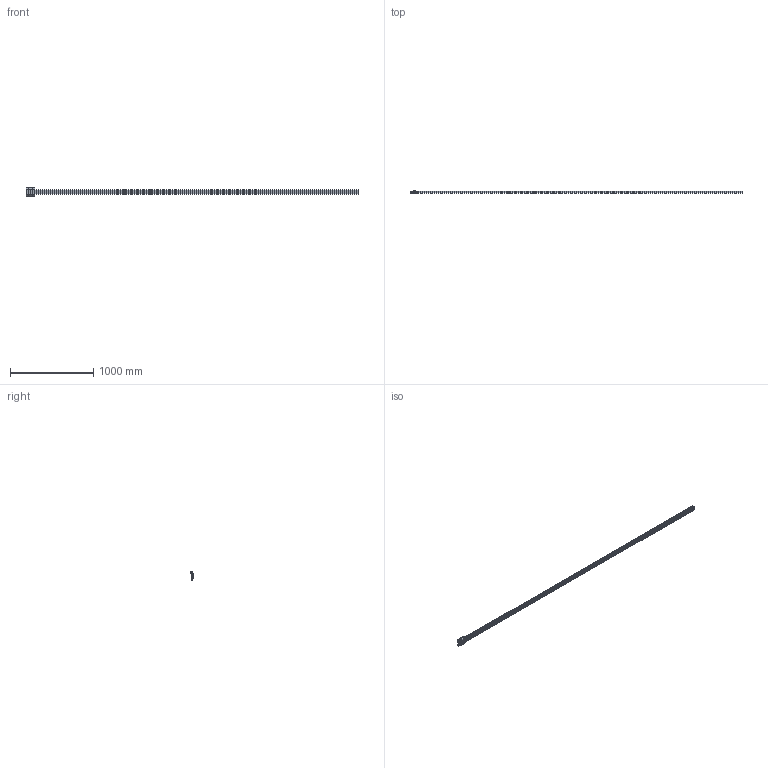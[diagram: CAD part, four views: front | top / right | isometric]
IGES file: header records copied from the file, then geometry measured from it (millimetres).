
Start section: Data from Parasolid IGES Translator 20.0.26, Copyright(c) 2006 Siemens P LM Software. All Rights Reserved.
Global section: file name: FDG25 84367LN_4000-0-0.igs; native system: By Siemens PLM Incorporated; preprocessor: XPlus GENERIC/IGES 20.0.26; author: Noname; organization: Noname; date: 20220623.025040; units: millimetre
Bounding box: 4000 x 34.5 x 96.8 mm (x, y, z)
Surface area: 983211.5 mm2 (no closed solid volume)
Topology: 0 solids, 0 shells, 845 faces, 4134 edges, 3576 vertices
Faces by surface type: extrusion 497, revolution 348
